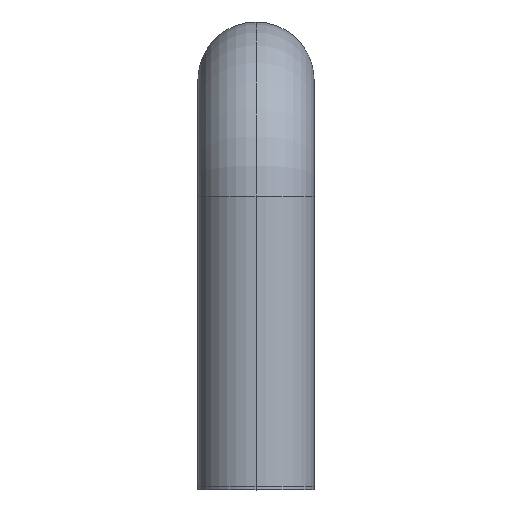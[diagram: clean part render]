
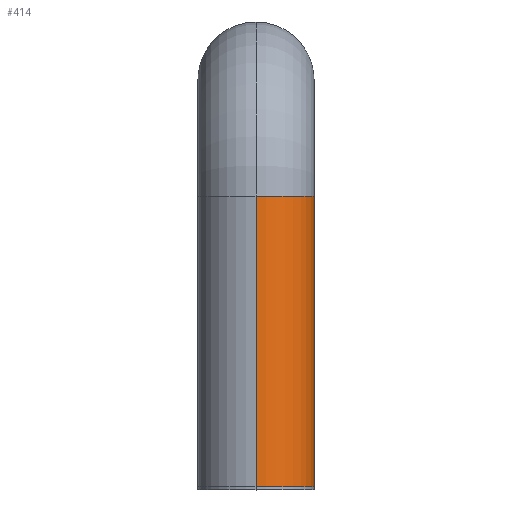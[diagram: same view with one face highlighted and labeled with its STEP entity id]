
A CAD part, top view. The second image highlights one B-rep face of the part: STEP entity #414.
In plain terms, the highlighted cylindrical face has radius 5 mm (diameter 10 mm), a partial arc.
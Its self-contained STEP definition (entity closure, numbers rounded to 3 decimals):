
#3 = EDGE_CURVE ( 'NONE', #153, #132, #525, .T. ) ;
#29 = CARTESIAN_POINT ( 'NONE',  ( 0., 0., 0. ) ) ;
#33 = FACE_OUTER_BOUND ( 'NONE', #610, .T. ) ;
#36 = DIRECTION ( 'NONE',  ( 0., 1., 0. ) ) ;
#49 = VECTOR ( 'NONE', #152, 1000. ) ;
#54 = VERTEX_POINT ( 'NONE', #536 ) ;
#92 = CARTESIAN_POINT ( 'NONE',  ( 0., 0., 5. ) ) ;
#129 = DIRECTION ( 'NONE',  ( 0., 1., 0. ) ) ;
#131 = AXIS2_PLACEMENT_3D ( 'NONE', #134, #222, #471 ) ;
#132 = VERTEX_POINT ( 'NONE', #490 ) ;
#134 = CARTESIAN_POINT ( 'NONE',  ( 0., 25., 0. ) ) ;
#152 = DIRECTION ( 'NONE',  ( 0., 1., 0. ) ) ;
#153 = VERTEX_POINT ( 'NONE', #92 ) ;
#212 = LINE ( 'NONE', #254, #49 ) ;
#216 = EDGE_CURVE ( 'NONE', #132, #54, #212, .T. ) ;
#220 = CARTESIAN_POINT ( 'NONE',  ( 0., 0., 5. ) ) ;
#222 = DIRECTION ( 'NONE',  ( 0., 1., 0. ) ) ;
#237 = VECTOR ( 'NONE', #129, 1000. ) ;
#254 = CARTESIAN_POINT ( 'NONE',  ( 0., 0., -5. ) ) ;
#279 = DIRECTION ( 'NONE',  ( 0., 1., 0. ) ) ;
#321 = LINE ( 'NONE', #220, #237 ) ;
#362 = CYLINDRICAL_SURFACE ( 'NONE', #417, 5. ) ;
#414 = ADVANCED_FACE ( 'NONE', ( #33 ), #362, .T. ) ;
#417 = AXIS2_PLACEMENT_3D ( 'NONE', #29, #36, #514 ) ;
#438 = ORIENTED_EDGE ( 'NONE', *, *, #479, .F. ) ;
#453 = EDGE_CURVE ( 'NONE', #475, #54, #574, .T. ) ;
#454 = ORIENTED_EDGE ( 'NONE', *, *, #216, .T. ) ;
#460 = AXIS2_PLACEMENT_3D ( 'NONE', #566, #279, #569 ) ;
#471 = DIRECTION ( 'NONE',  ( 0., 0., 1. ) ) ;
#475 = VERTEX_POINT ( 'NONE', #614 ) ;
#479 = EDGE_CURVE ( 'NONE', #153, #475, #321, .T. ) ;
#490 = CARTESIAN_POINT ( 'NONE',  ( 0., 0., -5. ) ) ;
#514 = DIRECTION ( 'NONE',  ( 0., 0., 1. ) ) ;
#525 = CIRCLE ( 'NONE', #460, 5. ) ;
#536 = CARTESIAN_POINT ( 'NONE',  ( 0., 25., -5. ) ) ;
#551 = ORIENTED_EDGE ( 'NONE', *, *, #3, .T. ) ;
#566 = CARTESIAN_POINT ( 'NONE',  ( 0., 0., 0. ) ) ;
#569 = DIRECTION ( 'NONE',  ( 0., 0., 1. ) ) ;
#574 = CIRCLE ( 'NONE', #131, 5. ) ;
#591 = ORIENTED_EDGE ( 'NONE', *, *, #453, .F. ) ;
#610 = EDGE_LOOP ( 'NONE', ( #551, #454, #591, #438 ) ) ;
#614 = CARTESIAN_POINT ( 'NONE',  ( 0., 25., 5. ) ) ;
